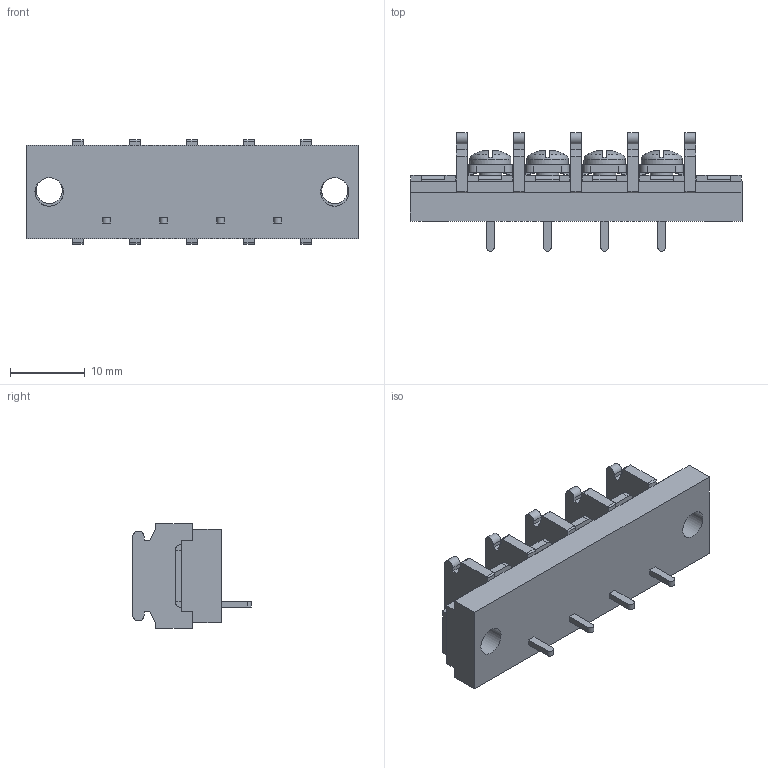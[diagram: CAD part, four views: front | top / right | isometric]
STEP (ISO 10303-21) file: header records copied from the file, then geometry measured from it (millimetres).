
FILE_DESCRIPTION(/* description */ ('Alibre Inc.'),/* implementation_level */ '2;1');
FILE_NAME(/* name */ 'export0',/* time_stamp */ '2015-10-23T19:35:42+09:00',/* author */ (''),/* organization */ (''),/* preprocessor_version */ 'ST-DEVELOPER v14',/* originating_system */ 'Alibre',/* authorisation */ '');
FILE_SCHEMA (('CONFIG_CONTROL_DESIGN'));
Length unit declared in the file: centimetre
Products named in the file (1): ID_1
Bounding box: 44.3 x 15.8 x 14 mm (x, y, z)
Volume: 3778.9 mm3; surface area: 3644.4 mm2
Topology: 1 solids, 17 shells, 908 faces, 2448 edges, 1612 vertices
Faces by surface type: plane 694, bspline 104, cylinder 78, cone 16, torus 8, sphere 8
Full cylindrical faces by diameter (mm): 3 x4, 3.5 x2, 3.8 x2, 5.5 x4
Entity records: 27133 total; most frequent: CARTESIAN_POINT 6113, ORIENTED_EDGE 4816, DIRECTION 3218, EDGE_CURVE 2408, VECTOR 1796, LINE 1796, VERTEX_POINT 1592, AXIS2_PLACEMENT_3D 1029
